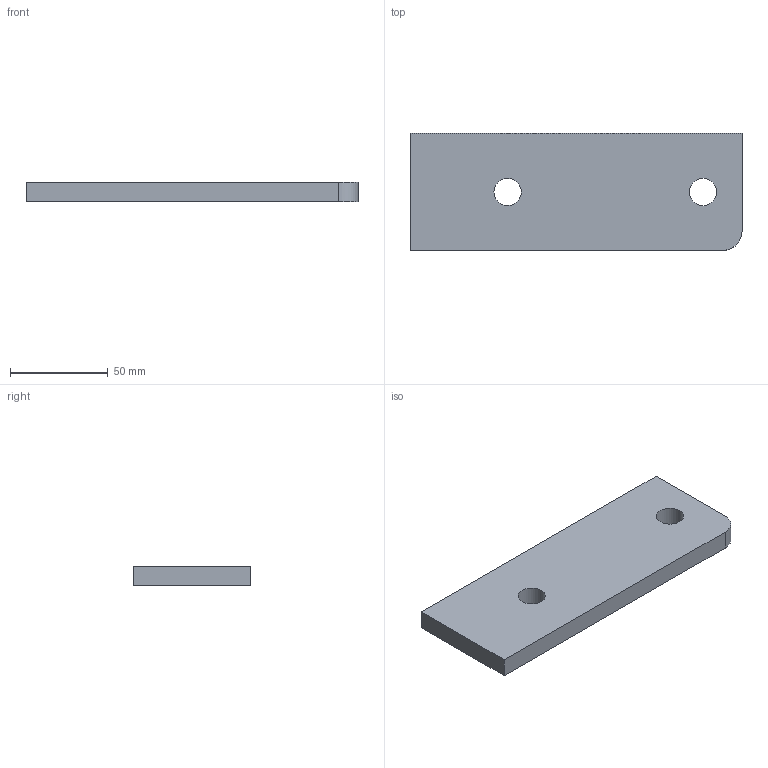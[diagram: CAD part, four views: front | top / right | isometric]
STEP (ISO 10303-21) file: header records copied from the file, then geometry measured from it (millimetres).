
FILE_DESCRIPTION(/* description */ (''),/* implementation_level */ '2;1');
FILE_NAME(/* name */ 'Pos123-Plaatwerk D= 10-S235JRG2-3st',/* time_stamp */ '2024-08-06T13:37:42+02:00',/* author */ (''),/* organization */ (''),/* preprocessor_version */ 'ST-DEVELOPER v16.5',/* originating_system */ 'HiCAD 2024 2901.2 Build 361',/* authorisation */ '');
FILE_SCHEMA (('AUTOMOTIVE_DESIGN { 1 0 10303 214 1 1 1 1 }'));
Length unit declared in the file: millimetre
Products named in the file (1): Pos123-Plaatwerk D= 10-S235JRG2-3st
Bounding box: 170 x 60 x 10 mm (x, y, z)
Volume: 98706.6 mm3; surface area: 25178.1 mm2
Topology: 1 solids, 1 shells, 9 faces, 23 edges, 16 vertices
Faces by surface type: plane 6, cylinder 3
Full cylindrical faces by diameter (mm): 14 x2
Entity records: 467 total; most frequent: DIRECTION 43, CARTESIAN_POINT 42, PRESENTATION_STYLE_ASSIGNMENT 39, COLOUR_RGB 39, DRAUGHTING_PRE_DEFINED_CURVE_FONT 38, CURVE_STYLE 38, OVER_RIDING_STYLED_ITEM 38, ORIENTED_EDGE 38
